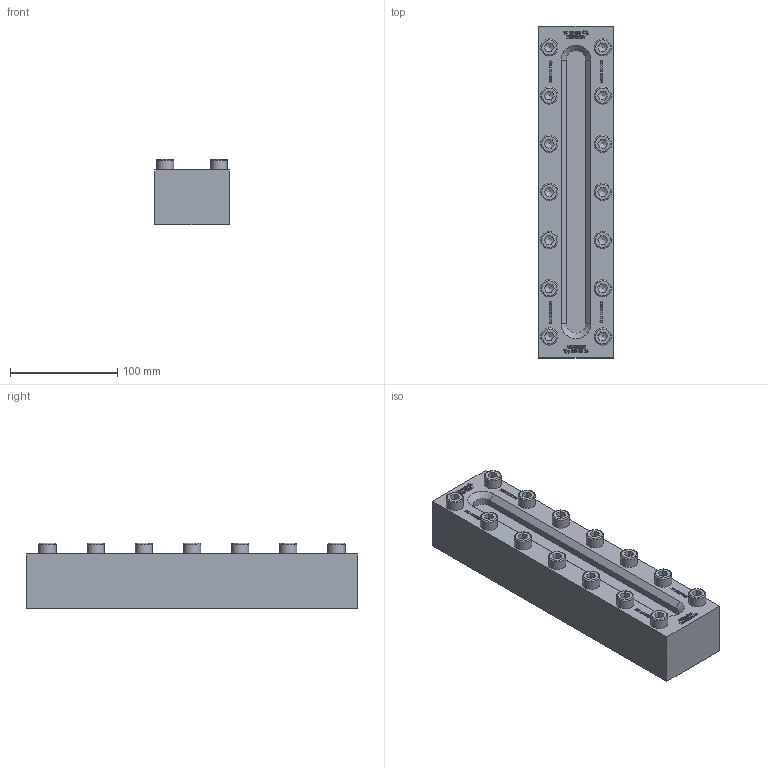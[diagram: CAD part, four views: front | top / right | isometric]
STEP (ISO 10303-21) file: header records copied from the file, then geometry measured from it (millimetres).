
FILE_DESCRIPTION(/* description */ (''),/* implementation_level */ '2;1');
FILE_NAME(/* name */ 'W:\Konstruktion_ACI\330\_Zeichnungen\STEP\ACI-330-310-16.stp',/* time_stamp */ '2022-03-01T17:12:29+01:00',/* author */ ('koslowksi'),/* organization */ (''),/* preprocessor_version */ 'ST-DEVELOPER v16.1',/* originating_system */ 'Autodesk Inventor 2016',/* authorisation */ '');
FILE_SCHEMA (('AUTOMOTIVE_DESIGN { 1 0 10303 214 3 1 1 }'));
Length unit declared in the file: centimetre
Products named in the file (1): ACI-330-310-16.stp
Bounding box: 70 x 310 x 60.9 mm (x, y, z)
Volume: 1000985 mm3; surface area: 103741.8 mm2
Topology: 1 solids, 1 shells, 1266 faces, 3426 edges, 2278 vertices
Faces by surface type: plane 900, bspline 318, cylinder 18, cone 16, torus 14
Full cylindrical faces by diameter (mm): 16 x14
Entity records: 41622 total; most frequent: CARTESIAN_POINT 11175, ORIENTED_EDGE 6712, DIRECTION 4586, EDGE_CURVE 3356, LINE 2584, VECTOR 2584, VERTEX_POINT 2250, EDGE_LOOP 1424
